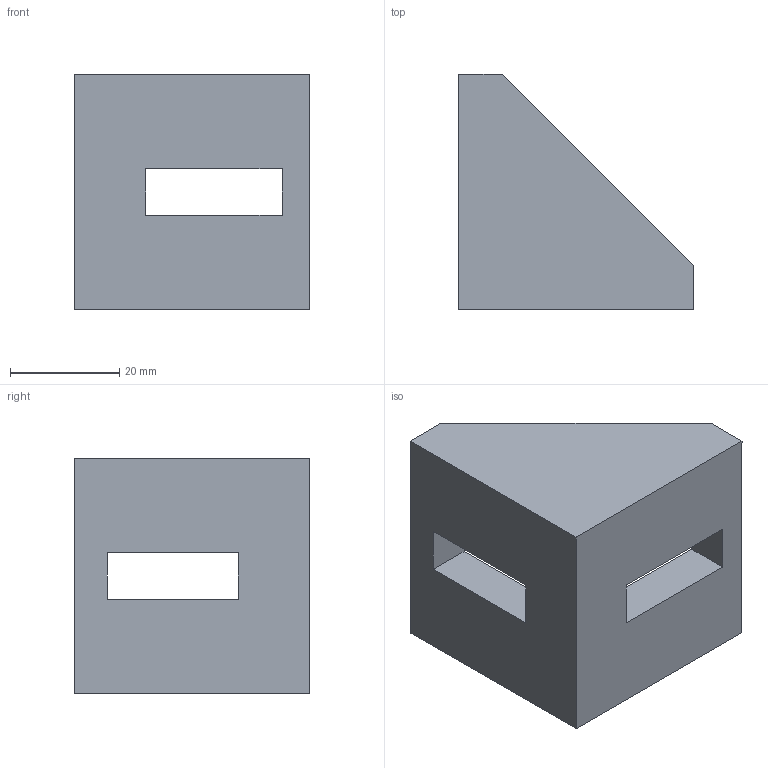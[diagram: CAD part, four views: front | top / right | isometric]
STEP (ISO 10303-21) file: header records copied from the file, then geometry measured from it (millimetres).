
FILE_DESCRIPTION (( 'STEP AP203' ), '1' );
FILE_NAME ('084.305.003.STEP', '2013-01-23T08:40:39', ( 'Alusic' ), ( 'Alusic' ), 'SwSTEP 2.0', 'SolidWorks 2011', '' );
FILE_SCHEMA (( 'CONFIG_CONTROL_DESIGN' ));
Length unit declared in the file: millimetre
Products named in the file (1): 084.305.003
Bounding box: 43 x 43 x 43 mm (x, y, z)
Volume: 29625 mm3; surface area: 11112 mm2
Topology: 1 solids, 1 shells, 20 faces, 50 edges, 32 vertices
Faces by surface type: plane 20
Entity records: 667 total; most frequent: CARTESIAN_POINT 103, ORIENTED_EDGE 100, DIRECTION 92, EDGE_CURVE 50, VECTOR 50, LINE 50, VERTEX_POINT 32, EDGE_LOOP 24
